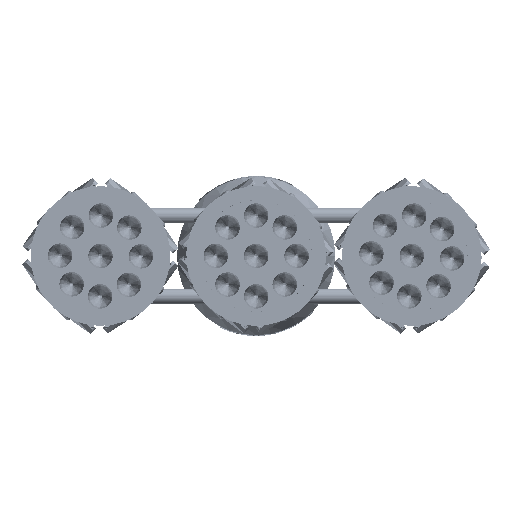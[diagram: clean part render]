
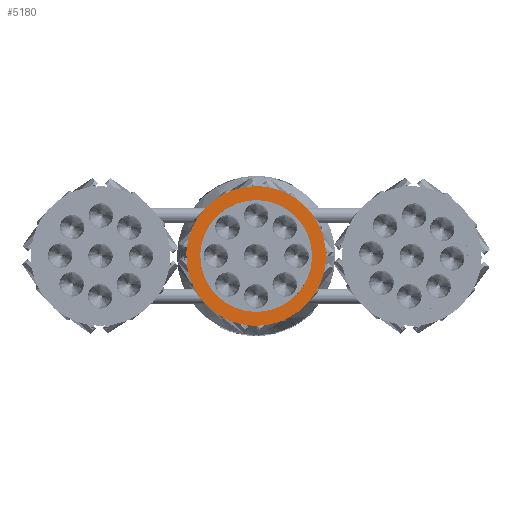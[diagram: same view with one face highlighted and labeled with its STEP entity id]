
A CAD part, front view. The second image highlights one B-rep face of the part: STEP entity #5180.
In plain terms, the highlighted planar face has unit normal (0, -1, 0).
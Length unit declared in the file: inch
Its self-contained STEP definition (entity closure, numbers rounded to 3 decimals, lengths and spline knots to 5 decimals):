
#266 = ORIENTED_EDGE ( 'NONE', *, *, #34744, .T. ) ;
#2754 = CARTESIAN_POINT ( 'NONE',  ( 0., 0., -72. ) ) ;
#3417 = DIRECTION ( 'NONE',  ( 0., 1., 0. ) ) ;
#4545 = EDGE_CURVE ( 'NONE', #33332, #45124, #23647, .T. ) ;
#4738 = ORIENTED_EDGE ( 'NONE', *, *, #4545, .F. ) ;
#5180 = ADVANCED_FACE ( 'NONE', ( #21904, #21301 ), #21720, .F. ) ;
#5312 = CARTESIAN_POINT ( 'NONE',  ( 0., 0., 0. ) ) ;
#6845 = DIRECTION ( 'NONE',  ( 0., 1., 0. ) ) ;
#7559 = DIRECTION ( 'NONE',  ( 0., 0., 1. ) ) ;
#9554 = CARTESIAN_POINT ( 'NONE',  ( 0., 0., 90. ) ) ;
#11018 = CARTESIAN_POINT ( 'NONE',  ( 0., 0., 0. ) ) ;
#12903 = CIRCLE ( 'NONE', #26865, 90. ) ;
#13794 = CIRCLE ( 'NONE', #25463, 72. ) ;
#14289 = AXIS2_PLACEMENT_3D ( 'NONE', #29642, #15128, #7559 ) ;
#14578 = EDGE_LOOP ( 'NONE', ( #43589, #4738 ) ) ;
#15128 = DIRECTION ( 'NONE',  ( 0., 1., 0. ) ) ;
#16568 = ORIENTED_EDGE ( 'NONE', *, *, #30152, .T. ) ;
#17539 = CARTESIAN_POINT ( 'NONE',  ( 0., 0., 72. ) ) ;
#17902 = DIRECTION ( 'NONE',  ( 0., 0., 1. ) ) ;
#20065 = EDGE_LOOP ( 'NONE', ( #16568, #266 ) ) ;
#21202 = CARTESIAN_POINT ( 'NONE',  ( 0., 0., -90. ) ) ;
#21301 = FACE_BOUND ( 'NONE', #20065, .T. ) ;
#21720 = PLANE ( 'NONE',  #14289 ) ;
#21904 = FACE_OUTER_BOUND ( 'NONE', #14578, .T. ) ;
#22654 = VERTEX_POINT ( 'NONE', #17539 ) ;
#23647 = CIRCLE ( 'NONE', #32800, 90. ) ;
#24998 = EDGE_CURVE ( 'NONE', #45124, #33332, #12903, .T. ) ;
#25463 = AXIS2_PLACEMENT_3D ( 'NONE', #5312, #31091, #45294 ) ;
#26837 = VERTEX_POINT ( 'NONE', #2754 ) ;
#26865 = AXIS2_PLACEMENT_3D ( 'NONE', #29029, #3417, #33225 ) ;
#28848 = CARTESIAN_POINT ( 'NONE',  ( 0., 0., 0. ) ) ;
#29029 = CARTESIAN_POINT ( 'NONE',  ( 0., 0., 0. ) ) ;
#29642 = CARTESIAN_POINT ( 'NONE',  ( 0., 0., 0. ) ) ;
#30152 = EDGE_CURVE ( 'NONE', #26837, #22654, #13794, .T. ) ;
#31091 = DIRECTION ( 'NONE',  ( 0., 1., 0. ) ) ;
#32186 = CIRCLE ( 'NONE', #46283, 72. ) ;
#32800 = AXIS2_PLACEMENT_3D ( 'NONE', #11018, #6845, #36930 ) ;
#33225 = DIRECTION ( 'NONE',  ( 0., 0., 1. ) ) ;
#33332 = VERTEX_POINT ( 'NONE', #9554 ) ;
#34744 = EDGE_CURVE ( 'NONE', #22654, #26837, #32186, .T. ) ;
#36249 = DIRECTION ( 'NONE',  ( 0., 1., 0. ) ) ;
#36930 = DIRECTION ( 'NONE',  ( 0., 0., 1. ) ) ;
#43589 = ORIENTED_EDGE ( 'NONE', *, *, #24998, .F. ) ;
#45124 = VERTEX_POINT ( 'NONE', #21202 ) ;
#45294 = DIRECTION ( 'NONE',  ( 0., 0., 1. ) ) ;
#46283 = AXIS2_PLACEMENT_3D ( 'NONE', #28848, #36249, #17902 ) ;
